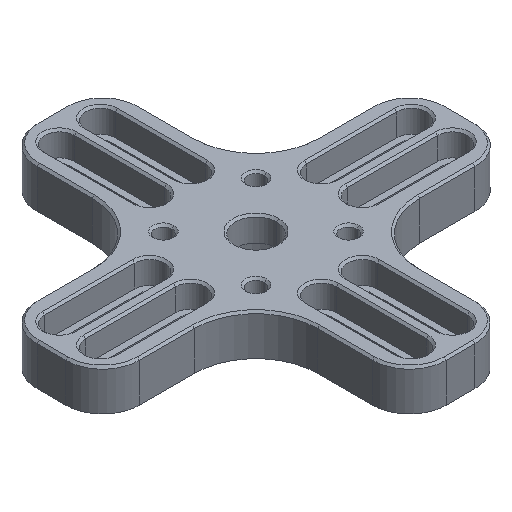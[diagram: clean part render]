
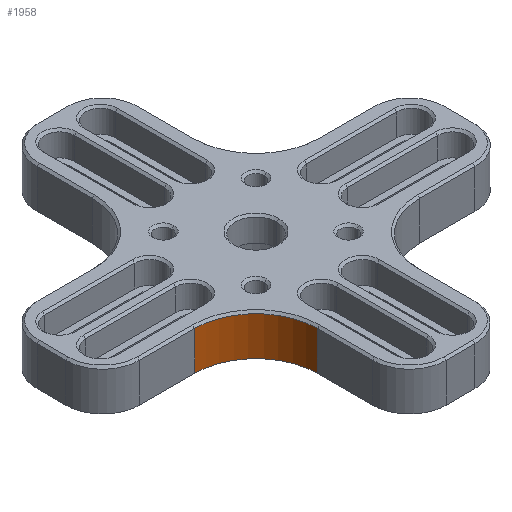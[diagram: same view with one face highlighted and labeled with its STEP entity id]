
A CAD part, isometric view. The second image highlights one B-rep face of the part: STEP entity #1958.
In plain terms, the highlighted cylindrical face has radius 15 mm (diameter 30 mm), a partial arc.
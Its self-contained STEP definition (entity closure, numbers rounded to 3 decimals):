
#39 = ORIENTED_EDGE ( 'NONE', *, *, #5622, .T. ) ;
#158 = DIRECTION ( 'NONE',  ( 0., 0., -1. ) ) ;
#307 = CIRCLE ( 'NONE', #7149, 15. ) ;
#411 = VERTEX_POINT ( 'NONE', #7649 ) ;
#502 = CARTESIAN_POINT ( 'NONE',  ( -12.5, -27.5, 9.5 ) ) ;
#519 = CARTESIAN_POINT ( 'NONE',  ( -27.5, -27.5, 0. ) ) ;
#797 = VERTEX_POINT ( 'NONE', #5194 ) ;
#868 = DIRECTION ( 'NONE',  ( 1., 0., 0. ) ) ;
#874 = ORIENTED_EDGE ( 'NONE', *, *, #7128, .T. ) ;
#1049 = ORIENTED_EDGE ( 'NONE', *, *, #4930, .F. ) ;
#1334 = ORIENTED_EDGE ( 'NONE', *, *, #5385, .F. ) ;
#1351 = VECTOR ( 'NONE', #158, 1000. ) ;
#1375 = LINE ( 'NONE', #2568, #1351 ) ;
#1497 = DIRECTION ( 'NONE',  ( -0.707, -0.707, 0. ) ) ;
#1585 = AXIS2_PLACEMENT_3D ( 'NONE', #1609, #1632, #1497 ) ;
#1609 = CARTESIAN_POINT ( 'NONE',  ( -27.5, -27.5, 10. ) ) ;
#1632 = DIRECTION ( 'NONE',  ( 0., 0., 1. ) ) ;
#1958 = ADVANCED_FACE ( 'NONE', ( #4237 ), #4097, .F. ) ;
#2568 = CARTESIAN_POINT ( 'NONE',  ( -12.5, -27.5, 10. ) ) ;
#3504 = VERTEX_POINT ( 'NONE', #4206 ) ;
#3653 = CARTESIAN_POINT ( 'NONE',  ( -27.5, -12.5, 10. ) ) ;
#3935 = DIRECTION ( 'NONE',  ( 0., 0., 1. ) ) ;
#3963 = DIRECTION ( 'NONE',  ( 1., 0., 0. ) ) ;
#4024 = VECTOR ( 'NONE', #4820, 1000. ) ;
#4097 = CYLINDRICAL_SURFACE ( 'NONE', #1585, 15. ) ;
#4206 = CARTESIAN_POINT ( 'NONE',  ( -27.5, -12.5, 9.5 ) ) ;
#4237 = FACE_OUTER_BOUND ( 'NONE', #5467, .T. ) ;
#4485 = VERTEX_POINT ( 'NONE', #502 ) ;
#4729 = DIRECTION ( 'NONE',  ( 0., 0., 1. ) ) ;
#4820 = DIRECTION ( 'NONE',  ( 0., 0., -1. ) ) ;
#4930 = EDGE_CURVE ( 'NONE', #411, #797, #5503, .T. ) ;
#5123 = CARTESIAN_POINT ( 'NONE',  ( -27.5, -27.5, 9.5 ) ) ;
#5194 = CARTESIAN_POINT ( 'NONE',  ( -27.5, -12.5, 0. ) ) ;
#5385 = EDGE_CURVE ( 'NONE', #4485, #411, #1375, .T. ) ;
#5467 = EDGE_LOOP ( 'NONE', ( #1049, #1334, #39, #874 ) ) ;
#5503 = CIRCLE ( 'NONE', #6406, 15. ) ;
#5622 = EDGE_CURVE ( 'NONE', #4485, #3504, #307, .T. ) ;
#6406 = AXIS2_PLACEMENT_3D ( 'NONE', #519, #3935, #3963 ) ;
#6548 = LINE ( 'NONE', #3653, #4024 ) ;
#7128 = EDGE_CURVE ( 'NONE', #3504, #797, #6548, .T. ) ;
#7149 = AXIS2_PLACEMENT_3D ( 'NONE', #5123, #4729, #868 ) ;
#7649 = CARTESIAN_POINT ( 'NONE',  ( -12.5, -27.5, 0. ) ) ;
